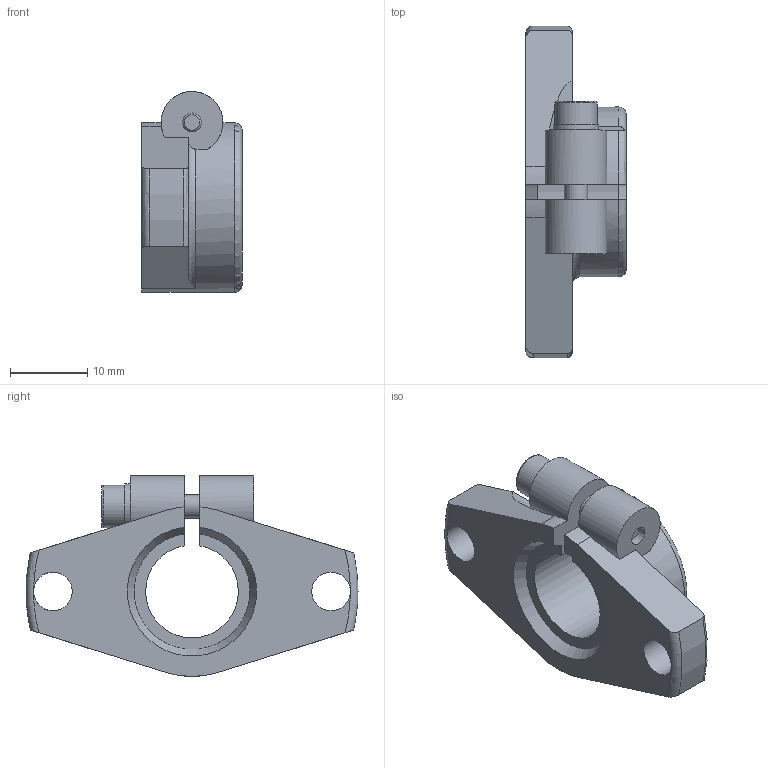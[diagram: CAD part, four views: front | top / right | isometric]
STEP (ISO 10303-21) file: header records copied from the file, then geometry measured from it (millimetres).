
FILE_DESCRIPTION((''),'2;1');
FILE_NAME('D:\製品 (図面)\カタログ用3D\シャフトブロック関連\STEP形式\SF\SF12.stp','2010-06-01T16:24:20',('Tsuchiya'),(''),'Autodesk Inventor 10','Autodesk Inventor 10','');
FILE_SCHEMA(('AUTOMOTIVE_DESIGN { 1 0 10303 214 1 1 1 1 }'));
Length unit declared in the file: millimetre
Products named in the file (1): SF12
Bounding box: 13 x 42.96 x 26 mm (x, y, z)
Volume: 5326.4 mm3; surface area: 3329.4 mm2
Topology: 1 solids, 1 shells, 54 faces, 147 edges, 97 vertices
Faces by surface type: plane 25, cylinder 15, torus 6, cone 4, bspline 4
Full cylindrical faces by diameter (mm): 3 x1, 5 x2, 5.5 x1, 5.9 x1
Entity records: 1974 total; most frequent: CARTESIAN_POINT 691, ORIENTED_EDGE 262, DIRECTION 252, EDGE_CURVE 131, AXIS2_PLACEMENT_3D 101, VERTEX_POINT 91, EDGE_LOOP 72, FACE_OUTER_BOUND 54
